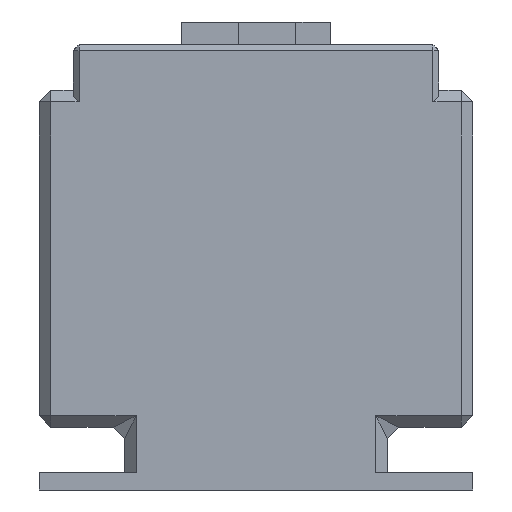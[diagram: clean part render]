
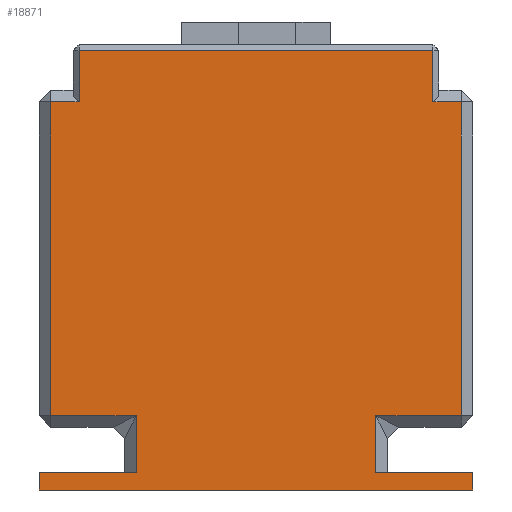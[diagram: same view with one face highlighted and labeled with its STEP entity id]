
A CAD part, left-side view. The second image highlights one B-rep face of the part: STEP entity #18871.
In plain terms, the highlighted planar face has unit normal (-1, 0, 0).
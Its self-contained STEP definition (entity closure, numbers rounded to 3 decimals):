
#1997=FACE_OUTER_BOUND('',#3122,.T.);
#3122=EDGE_LOOP('',(#15447,#15448,#15449,#15450,#15451,#15452,#15453,#15454,
#15455,#15456,#15457,#15458,#15459,#15460,#15461,#15462));
#4788=LINE('',#31683,#6651);
#4790=LINE('',#31686,#6653);
#4794=LINE('',#31696,#6657);
#4824=LINE('',#31759,#6687);
#4826=LINE('',#31762,#6689);
#4832=LINE('',#31771,#6695);
#4841=LINE('',#31787,#6704);
#4876=LINE('',#31860,#6739);
#4879=LINE('',#31865,#6742);
#4883=LINE('',#31871,#6746);
#4887=LINE('',#31879,#6750);
#4891=LINE('',#31887,#6754);
#4892=LINE('',#31889,#6755);
#4893=LINE('',#31891,#6756);
#4894=LINE('',#31893,#6757);
#4895=LINE('',#31894,#6758);
#6651=VECTOR('',#22499,10.);
#6653=VECTOR('',#22503,10.);
#6657=VECTOR('',#22513,10.);
#6687=VECTOR('',#22565,10.);
#6689=VECTOR('',#22569,10.);
#6695=VECTOR('',#22581,10.);
#6704=VECTOR('',#22596,10.);
#6739=VECTOR('',#22661,10.);
#6742=VECTOR('',#22668,10.);
#6746=VECTOR('',#22674,10.);
#6750=VECTOR('',#22682,10.);
#6754=VECTOR('',#22690,10.);
#6755=VECTOR('',#22691,10.);
#6756=VECTOR('',#22692,10.);
#6757=VECTOR('',#22693,10.);
#6758=VECTOR('',#22694,10.);
#8441=VERTEX_POINT('',#31667);
#8443=VERTEX_POINT('',#31676);
#8445=VERTEX_POINT('',#31681);
#8447=VERTEX_POINT('',#31692);
#8454=VERTEX_POINT('',#31709);
#8460=VERTEX_POINT('',#31723);
#8465=VERTEX_POINT('',#31735);
#8473=VERTEX_POINT('',#31783);
#8489=VERTEX_POINT('',#31835);
#8493=VERTEX_POINT('',#31843);
#8495=VERTEX_POINT('',#31852);
#8500=VERTEX_POINT('',#31877);
#8502=VERTEX_POINT('',#31886);
#8503=VERTEX_POINT('',#31888);
#8504=VERTEX_POINT('',#31890);
#8505=VERTEX_POINT('',#31892);
#10833=EDGE_CURVE('',#8445,#8443,#4788,.T.);
#10835=EDGE_CURVE('',#8443,#8441,#4790,.T.);
#10840=EDGE_CURVE('',#8441,#8447,#4794,.T.);
#10870=EDGE_CURVE('',#8447,#8465,#4824,.T.);
#10872=EDGE_CURVE('',#8465,#8460,#4826,.T.);
#10878=EDGE_CURVE('',#8460,#8454,#4832,.T.);
#10887=EDGE_CURVE('',#8454,#8473,#4841,.T.);
#10922=EDGE_CURVE('',#8495,#8493,#4876,.T.);
#10925=EDGE_CURVE('',#8489,#8495,#4879,.T.);
#10929=EDGE_CURVE('',#8493,#8445,#4883,.T.);
#10933=EDGE_CURVE('',#8500,#8489,#4887,.T.);
#10937=EDGE_CURVE('',#8500,#8502,#4891,.T.);
#10938=EDGE_CURVE('',#8503,#8502,#4892,.T.);
#10939=EDGE_CURVE('',#8503,#8504,#4893,.T.);
#10940=EDGE_CURVE('',#8504,#8505,#4894,.T.);
#10941=EDGE_CURVE('',#8505,#8473,#4895,.T.);
#15447=ORIENTED_EDGE('',*,*,#10929,.F.);
#15448=ORIENTED_EDGE('',*,*,#10922,.F.);
#15449=ORIENTED_EDGE('',*,*,#10925,.F.);
#15450=ORIENTED_EDGE('',*,*,#10933,.F.);
#15451=ORIENTED_EDGE('',*,*,#10937,.T.);
#15452=ORIENTED_EDGE('',*,*,#10938,.F.);
#15453=ORIENTED_EDGE('',*,*,#10939,.T.);
#15454=ORIENTED_EDGE('',*,*,#10940,.T.);
#15455=ORIENTED_EDGE('',*,*,#10941,.T.);
#15456=ORIENTED_EDGE('',*,*,#10887,.F.);
#15457=ORIENTED_EDGE('',*,*,#10878,.F.);
#15458=ORIENTED_EDGE('',*,*,#10872,.F.);
#15459=ORIENTED_EDGE('',*,*,#10870,.F.);
#15460=ORIENTED_EDGE('',*,*,#10840,.F.);
#15461=ORIENTED_EDGE('',*,*,#10835,.F.);
#15462=ORIENTED_EDGE('',*,*,#10833,.F.);
#17805=PLANE('',#19763);
#18871=ADVANCED_FACE('',(#1997),#17805,.T.);
#19763=AXIS2_PLACEMENT_3D('',#31885,#22688,#22689);
#22499=DIRECTION('',(0.,0.,1.));
#22503=DIRECTION('',(0.,-1.,0.));
#22513=DIRECTION('',(0.,0.,-1.));
#22565=DIRECTION('',(0.,-1.,0.));
#22569=DIRECTION('',(0.,0.,-1.));
#22581=DIRECTION('',(0.,1.,0.));
#22596=DIRECTION('',(0.,0.,-1.));
#22661=DIRECTION('',(0.,0.,1.));
#22668=DIRECTION('',(0.,1.,0.));
#22674=DIRECTION('',(0.,-1.,0.));
#22682=DIRECTION('',(0.,0.,1.));
#22688=DIRECTION('center_axis',(-1.,0.,0.));
#22689=DIRECTION('ref_axis',(0.,-1.,0.));
#22690=DIRECTION('',(0.,1.,0.));
#22691=DIRECTION('',(0.,0.,1.));
#22692=DIRECTION('',(0.,-1.,0.));
#22693=DIRECTION('',(0.,0.,1.));
#22694=DIRECTION('',(0.,1.,0.));
#31667=CARTESIAN_POINT('',(0.,7.,77.));
#31676=CARTESIAN_POINT('',(0.,69.,77.));
#31681=CARTESIAN_POINT('',(0.,69.,68.));
#31683=CARTESIAN_POINT('',(0.,69.,41.));
#31686=CARTESIAN_POINT('',(0.,57.,77.));
#31692=CARTESIAN_POINT('',(0.,7.,68.));
#31696=CARTESIAN_POINT('',(0.,7.,41.));
#31709=CARTESIAN_POINT('',(0.,17.,13.));
#31723=CARTESIAN_POINT('',(0.,2.,13.));
#31735=CARTESIAN_POINT('',(0.,2.,68.));
#31759=CARTESIAN_POINT('',(0.,39.803,68.));
#31762=CARTESIAN_POINT('',(0.,2.,0.));
#31771=CARTESIAN_POINT('',(0.,38.,13.));
#31783=CARTESIAN_POINT('',(0.,17.,3.));
#31787=CARTESIAN_POINT('',(0.,17.,3.5));
#31835=CARTESIAN_POINT('',(0.,59.,13.));
#31843=CARTESIAN_POINT('',(0.,74.,68.));
#31852=CARTESIAN_POINT('',(0.,74.,13.));
#31860=CARTESIAN_POINT('',(0.,74.,0.));
#31865=CARTESIAN_POINT('',(0.,76.,13.));
#31871=CARTESIAN_POINT('',(0.,74.197,68.));
#31877=CARTESIAN_POINT('',(0.,59.,3.));
#31879=CARTESIAN_POINT('',(0.,59.,3.5));
#31885=CARTESIAN_POINT('Origin',(0.,76.,0.));
#31886=CARTESIAN_POINT('',(0.,76.,3.));
#31887=CARTESIAN_POINT('',(0.,76.,3.));
#31888=CARTESIAN_POINT('',(0.,76.,0.));
#31889=CARTESIAN_POINT('',(0.,76.,0.));
#31890=CARTESIAN_POINT('',(0.,0.,0.));
#31891=CARTESIAN_POINT('',(0.,76.,0.));
#31892=CARTESIAN_POINT('',(0.,0.,3.));
#31893=CARTESIAN_POINT('',(0.,0.,0.));
#31894=CARTESIAN_POINT('',(0.,38.,3.));
